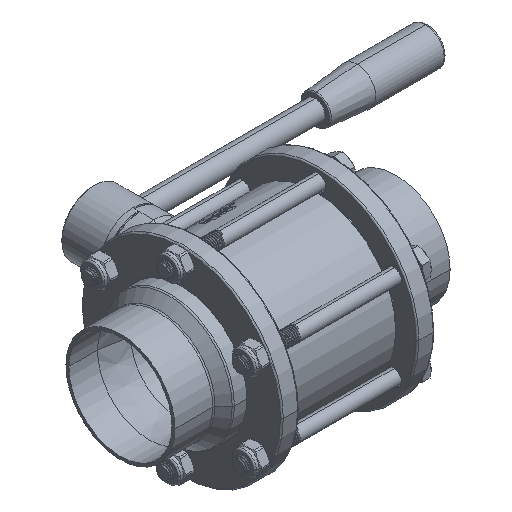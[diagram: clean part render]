
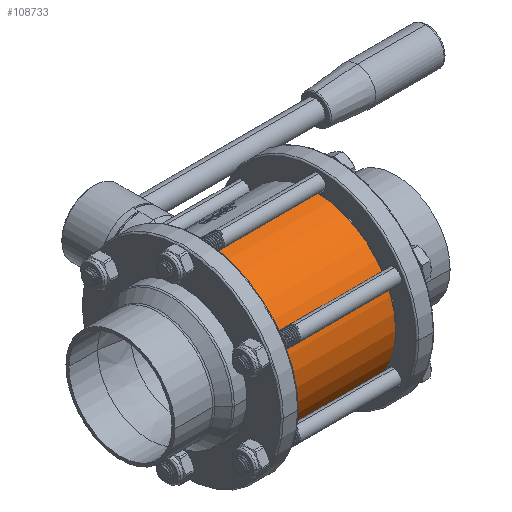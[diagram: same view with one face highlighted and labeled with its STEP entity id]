
A CAD part, isometric view. The second image highlights one B-rep face of the part: STEP entity #108733.
In plain terms, the highlighted cylindrical face has radius 56 mm (diameter 112 mm), a partial arc.
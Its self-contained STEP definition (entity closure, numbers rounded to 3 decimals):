
#1294=CARTESIAN_POINT('',(40.1,0.,0.));
#1295=DIRECTION('',(1.,0.,0.));
#1296=DIRECTION('',(0.,0.,1.));
#1297=AXIS2_PLACEMENT_3D('',#1294,#1295,#1296);
#1302=DIRECTION('',(1.,0.,0.));
#1303=VECTOR('',#1302,80.2);
#1304=CARTESIAN_POINT('',(-40.1,0.,
-56.));
#1305=LINE('',#1304,#1303);
#1309=CARTESIAN_POINT('',(-40.1,0.,0.));
#1310=DIRECTION('',(1.,0.,0.));
#1311=DIRECTION('',(0.,0.,1.));
#1312=AXIS2_PLACEMENT_3D('',#1309,#1310,#1311);
#1317=DIRECTION('',(1.,0.,0.));
#1318=VECTOR('',#1317,80.2);
#1319=CARTESIAN_POINT('',(-40.1,0.,
56.));
#1320=LINE('',#1319,#1318);
#104442=CARTESIAN_POINT('',(-40.1,0.,56.));
#104443=CARTESIAN_POINT('',(-40.1,0.,-56.));
#104444=VERTEX_POINT('',#104442);
#104445=VERTEX_POINT('',#104443);
#104454=CARTESIAN_POINT('',(40.1,0.,56.));
#104455=CARTESIAN_POINT('',(40.1,0.,-56.));
#104456=VERTEX_POINT('',#104454);
#104457=VERTEX_POINT('',#104455);
#108721=CARTESIAN_POINT('',(44.66,0.,0.));
#108722=DIRECTION('',(-1.,0.,0.));
#108723=DIRECTION('',(0.,0.,-1.));
#108724=AXIS2_PLACEMENT_3D('',#108721,#108722,#108723);
#108725=CYLINDRICAL_SURFACE('',#108724,56.);
#108726=ORIENTED_EDGE('',*,*,#108444,.T.);
#108727=ORIENTED_EDGE('',*,*,#108474,.F.);
#108729=ORIENTED_EDGE('',*,*,#108728,.F.);
#108730=ORIENTED_EDGE('',*,*,#108470,.T.);
#108731=EDGE_LOOP('',(#108726,#108727,#108729,#108730));
#108732=FACE_OUTER_BOUND('',#108731,.F.);
#108733=ADVANCED_FACE('',(#108732),#108725,.T.);
#1298=CIRCLE('',#1297,56.);
#1313=CIRCLE('',#1312,56.);
#108444=EDGE_CURVE('',#104456,#104457,#1298,.T.);
#108470=EDGE_CURVE('',#104444,#104456,#1320,.T.);
#108474=EDGE_CURVE('',#104445,#104457,#1305,.T.);
#108728=EDGE_CURVE('',#104444,#104445,#1313,.T.);
